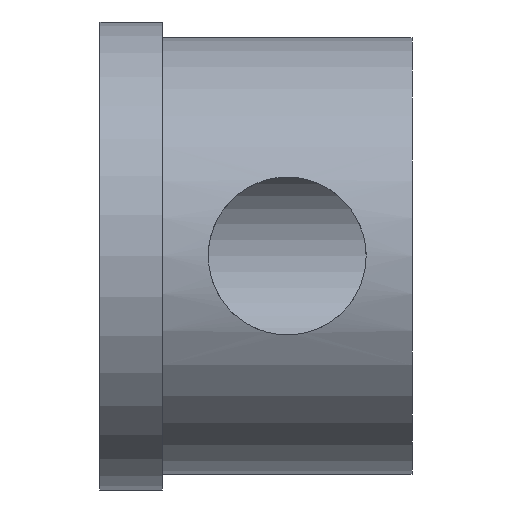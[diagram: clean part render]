
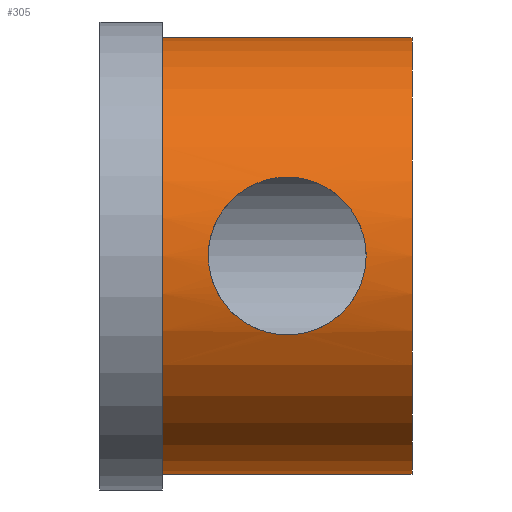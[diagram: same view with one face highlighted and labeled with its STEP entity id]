
A CAD part, left-side view. The second image highlights one B-rep face of the part: STEP entity #305.
In plain terms, the highlighted cylindrical face has radius 3.5 mm (diameter 7 mm), a full revolution.
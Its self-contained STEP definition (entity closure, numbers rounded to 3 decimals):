
#37=CIRCLE('',#339,3.5);
#38=CIRCLE('',#340,3.5);
#55=FACE_OUTER_BOUND('',#71,.T.);
#71=EDGE_LOOP('',(#226,#227,#228,#229,#230,#231,#232,#233,#234));
#100=LINE('',#560,#118);
#101=LINE('',#562,#119);
#118=VECTOR('',#385,3.5);
#119=VECTOR('',#386,3.5);
#136=B_SPLINE_CURVE_WITH_KNOTS('',3,(#511,#512,#513,#514,#515,#516,#517,
#518,#519,#520),.UNSPECIFIED.,.F.,.F.,(4,2,2,2,4),(0.,0.048,
0.096,0.144,0.192),.UNSPECIFIED.);
#137=B_SPLINE_CURVE_WITH_KNOTS('',3,(#522,#523,#524,#525,#526,#527,#528,
#529,#530,#531),.UNSPECIFIED.,.F.,.F.,(4,2,2,2,4),(0.577,0.625,
0.673,0.722,0.77),.UNSPECIFIED.);
#138=B_SPLINE_CURVE_WITH_KNOTS('',3,(#532,#533,#534,#535,#536,#537,#538,
#539,#540,#541,#542,#543,#544,#545,#546,#547,#548,#549),.UNSPECIFIED.,.F.,
 .F.,(4,2,2,2,2,2,2,2,4),(0.192,0.241,0.289,
0.337,0.385,0.433,0.481,
0.529,0.577),.UNSPECIFIED.);
#142=VERTEX_POINT('',#508);
#143=VERTEX_POINT('',#510);
#144=VERTEX_POINT('',#521);
#147=VERTEX_POINT('',#558);
#148=VERTEX_POINT('',#561);
#171=EDGE_CURVE('',#143,#142,#136,.T.);
#172=EDGE_CURVE('',#144,#143,#137,.T.);
#173=EDGE_CURVE('',#142,#144,#138,.T.);
#178=EDGE_CURVE('',#147,#147,#37,.T.);
#179=EDGE_CURVE('',#147,#144,#100,.T.);
#180=EDGE_CURVE('',#142,#148,#101,.T.);
#181=EDGE_CURVE('',#148,#148,#38,.T.);
#226=ORIENTED_EDGE('',*,*,#178,.F.);
#227=ORIENTED_EDGE('',*,*,#179,.T.);
#228=ORIENTED_EDGE('',*,*,#172,.T.);
#229=ORIENTED_EDGE('',*,*,#171,.T.);
#230=ORIENTED_EDGE('',*,*,#180,.T.);
#231=ORIENTED_EDGE('',*,*,#181,.T.);
#232=ORIENTED_EDGE('',*,*,#180,.F.);
#233=ORIENTED_EDGE('',*,*,#173,.T.);
#234=ORIENTED_EDGE('',*,*,#179,.F.);
#295=CYLINDRICAL_SURFACE('',#338,3.5);
#305=ADVANCED_FACE('',(#55),#295,.T.);
#338=AXIS2_PLACEMENT_3D('',#557,#381,#382);
#339=AXIS2_PLACEMENT_3D('',#559,#383,#384);
#340=AXIS2_PLACEMENT_3D('',#563,#387,#388);
#381=DIRECTION('center_axis',(0.,1.,0.));
#382=DIRECTION('ref_axis',(1.,0.,0.));
#383=DIRECTION('center_axis',(0.,1.,0.));
#384=DIRECTION('ref_axis',(1.,0.,0.));
#385=DIRECTION('',(0.,-1.,0.));
#386=DIRECTION('',(0.,-1.,0.));
#387=DIRECTION('center_axis',(0.,1.,0.));
#388=DIRECTION('ref_axis',(1.,0.,0.));
#508=CARTESIAN_POINT('',(-3.5,0.736,0.));
#510=CARTESIAN_POINT('',(-3.264,2.,1.265));
#511=CARTESIAN_POINT('Ctrl Pts',(-3.264,2.,1.265));
#512=CARTESIAN_POINT('Ctrl Pts',(-3.264,1.84,1.265));
#513=CARTESIAN_POINT('Ctrl Pts',(-3.277,1.67,1.232));
#514=CARTESIAN_POINT('Ctrl Pts',(-3.322,1.359,1.103));
#515=CARTESIAN_POINT('Ctrl Pts',(-3.354,1.217,1.006));
#516=CARTESIAN_POINT('Ctrl Pts',(-3.413,0.994,0.783));
#517=CARTESIAN_POINT('Ctrl Pts',(-3.444,0.897,0.641));
#518=CARTESIAN_POINT('Ctrl Pts',(-3.488,0.768,0.33));
#519=CARTESIAN_POINT('Ctrl Pts',(-3.5,0.736,0.16));
#520=CARTESIAN_POINT('Ctrl Pts',(-3.5,0.736,0.));
#521=CARTESIAN_POINT('',(-3.5,3.265,0.));
#522=CARTESIAN_POINT('Ctrl Pts',(-3.5,3.265,0.));
#523=CARTESIAN_POINT('Ctrl Pts',(-3.5,3.265,0.16));
#524=CARTESIAN_POINT('Ctrl Pts',(-3.488,3.232,0.33));
#525=CARTESIAN_POINT('Ctrl Pts',(-3.444,3.103,0.641));
#526=CARTESIAN_POINT('Ctrl Pts',(-3.413,3.006,0.783));
#527=CARTESIAN_POINT('Ctrl Pts',(-3.354,2.783,1.006));
#528=CARTESIAN_POINT('Ctrl Pts',(-3.322,2.641,1.103));
#529=CARTESIAN_POINT('Ctrl Pts',(-3.277,2.33,1.232));
#530=CARTESIAN_POINT('Ctrl Pts',(-3.264,2.16,1.265));
#531=CARTESIAN_POINT('Ctrl Pts',(-3.264,2.,1.265));
#532=CARTESIAN_POINT('Ctrl Pts',(-3.5,0.736,0.));
#533=CARTESIAN_POINT('Ctrl Pts',(-3.5,0.736,-0.16));
#534=CARTESIAN_POINT('Ctrl Pts',(-3.488,0.768,-0.33));
#535=CARTESIAN_POINT('Ctrl Pts',(-3.444,0.897,-0.641));
#536=CARTESIAN_POINT('Ctrl Pts',(-3.413,0.994,-0.783));
#537=CARTESIAN_POINT('Ctrl Pts',(-3.354,1.217,-1.006));
#538=CARTESIAN_POINT('Ctrl Pts',(-3.322,1.359,-1.103));
#539=CARTESIAN_POINT('Ctrl Pts',(-3.277,1.67,-1.232));
#540=CARTESIAN_POINT('Ctrl Pts',(-3.264,1.84,-1.265));
#541=CARTESIAN_POINT('Ctrl Pts',(-3.264,2.16,-1.265));
#542=CARTESIAN_POINT('Ctrl Pts',(-3.277,2.33,-1.232));
#543=CARTESIAN_POINT('Ctrl Pts',(-3.322,2.641,-1.103));
#544=CARTESIAN_POINT('Ctrl Pts',(-3.354,2.783,-1.006));
#545=CARTESIAN_POINT('Ctrl Pts',(-3.413,3.006,-0.783));
#546=CARTESIAN_POINT('Ctrl Pts',(-3.444,3.103,-0.641));
#547=CARTESIAN_POINT('Ctrl Pts',(-3.488,3.232,-0.33));
#548=CARTESIAN_POINT('Ctrl Pts',(-3.5,3.265,-0.16));
#549=CARTESIAN_POINT('Ctrl Pts',(-3.5,3.265,0.));
#557=CARTESIAN_POINT('Origin',(0.,0.,0.));
#558=CARTESIAN_POINT('',(-3.5,4.,0.));
#559=CARTESIAN_POINT('Origin',(0.,4.,0.));
#560=CARTESIAN_POINT('',(-3.5,0.,0.));
#561=CARTESIAN_POINT('',(-3.5,0.,0.));
#562=CARTESIAN_POINT('',(-3.5,0.,0.));
#563=CARTESIAN_POINT('Origin',(0.,0.,0.));
